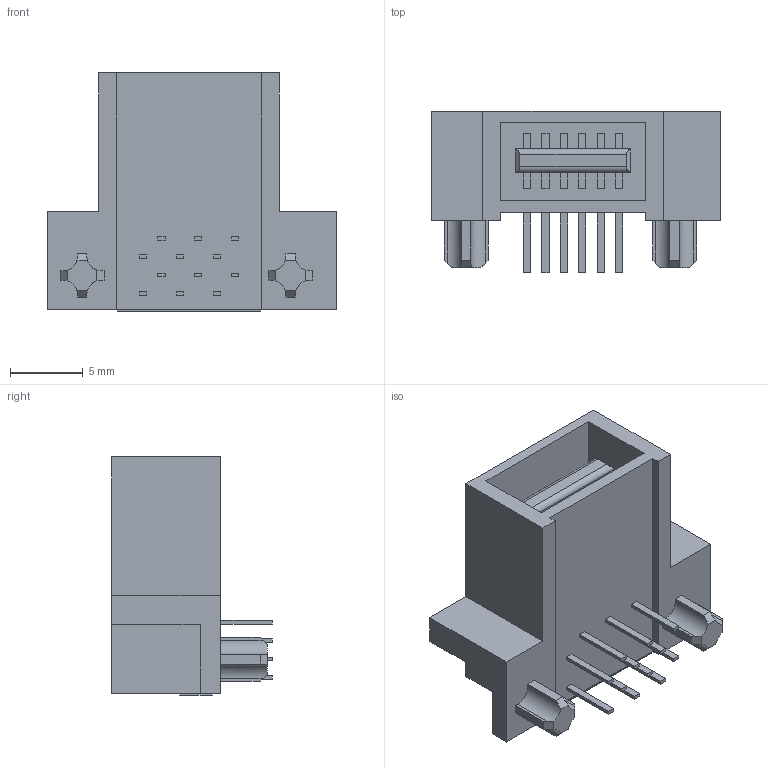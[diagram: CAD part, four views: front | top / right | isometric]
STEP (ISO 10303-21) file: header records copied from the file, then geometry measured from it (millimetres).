
FILE_DESCRIPTION((''),'2;1');
FILE_NAME('459850312','2020-10-29T',('me'),(''),'PRO/ENGINEER BY PARAMETRIC TECHNOLOGY CORPORATION, 2016010','PRO/ENGINEER BY PARAMETRIC TECHNOLOGY CORPORATION, 2016010','');
FILE_SCHEMA(('CONFIG_CONTROL_DESIGN'));
Length unit declared in the file: millimetre
Products named in the file (1): 459850312
Bounding box: 19.9 x 11.1 x 16.42 mm (x, y, z)
Volume: 960.9 mm3; surface area: 1749.8 mm2
Topology: 1 solids, 1 shells, 378 faces, 1084 edges, 724 vertices
Faces by surface type: plane 344, cylinder 34
Entity records: 12219 total; most frequent: CARTESIAN_POINT 2197, ORIENTED_EDGE 2112, DIRECTION 1918, EDGE_CURVE 1056, VECTOR 968, LINE 968, VERTEX_POINT 696, AXIS2_PLACEMENT_3D 475
